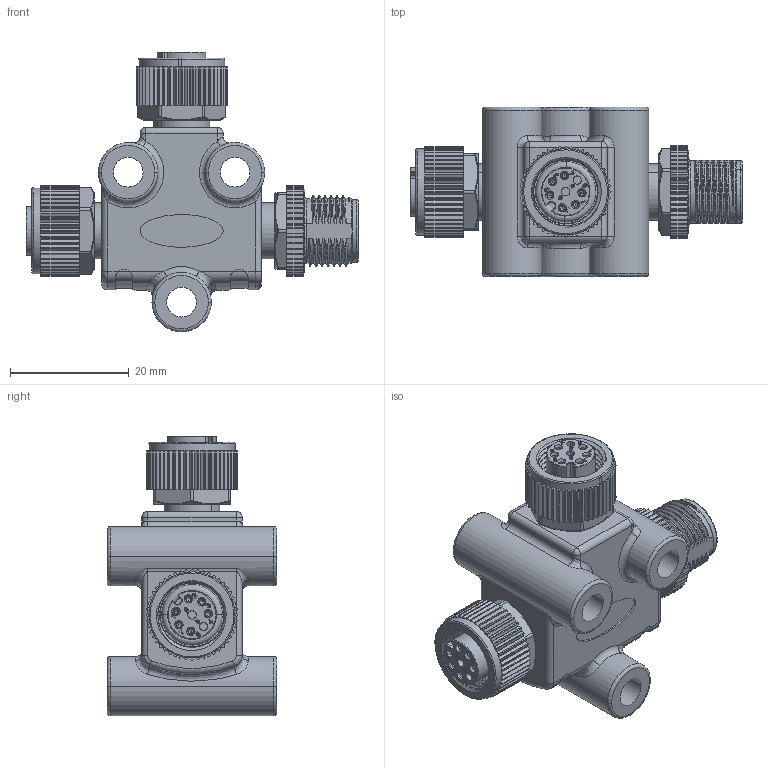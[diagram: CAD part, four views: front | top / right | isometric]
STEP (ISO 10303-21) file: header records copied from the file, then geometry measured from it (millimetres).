
FILE_DESCRIPTION((''),'2;1');
FILE_NAME('TA-A06F-A06F-A06M-01_SW0001','2023-06-05T',('L100003'),(''),'PRO/ENGINEER BY PARAMETRIC TECHNOLOGY CORPORATION, 2017170','PRO/ENGINEER BY PARAMETRIC TECHNOLOGY CORPORATION, 2017170','');
FILE_SCHEMA(('CONFIG_CONTROL_DESIGN'));
Products named in the file (1): TA-A06F-A06F-A06M-01_SW0001
Bounding box: 55.9 x 28.5 x 47.1 mm (x, y, z)
Volume: 17885.7 mm3; surface area: 12056.9 mm2
Topology: 3 solids, 5 shells, 2063 faces, 5466 edges, 3479 vertices
Faces by surface type: plane 797, cylinder 508, extrusion 276, bspline 235, cone 124, torus 67, sphere 56
Entity records: 91745 total; most frequent: CARTESIAN_POINT 42471, ORIENTED_EDGE 10860, DIRECTION 9246, EDGE_CURVE 5430, VERTEX_POINT 3479, AXIS2_PLACEMENT_3D 3147, VECTOR 2952, LINE 2676
